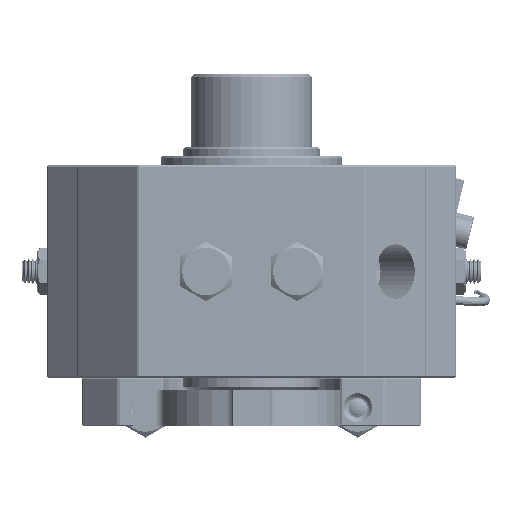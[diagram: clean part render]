
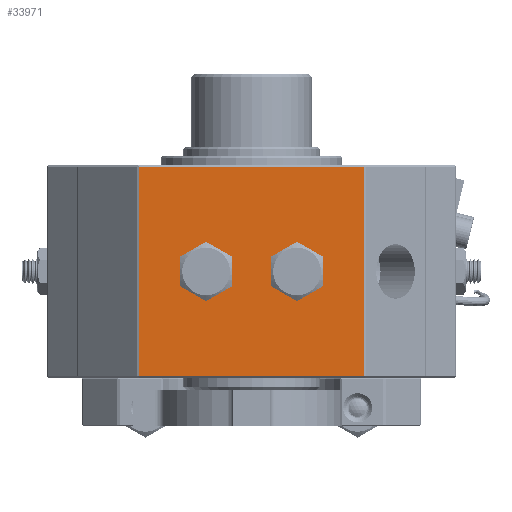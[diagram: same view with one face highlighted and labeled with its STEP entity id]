
A CAD part, left-side view. The second image highlights one B-rep face of the part: STEP entity #33971.
In plain terms, the highlighted planar face has unit normal (-1, 0, 0).
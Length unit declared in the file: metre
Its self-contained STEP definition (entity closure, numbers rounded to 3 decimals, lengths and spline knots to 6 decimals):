
#33910=CARTESIAN_POINT('',(-0.0525,-0.0675,-0.0275));
#33911=DIRECTION('',(1.0,0.0,0.0));
#33912=DIRECTION('',(0.0,0.0,-1.0));
#33913=AXIS2_PLACEMENT_3D('',#33910,#33911,#33912);
#33914=PLANE('',#33913);
#33915=CARTESIAN_POINT('',(-0.0525,0.037,-0.097));
#33916=VERTEX_POINT('',#33915);
#33917=CARTESIAN_POINT('',(-0.0525,0.037,-0.028));
#33918=VERTEX_POINT('',#33917);
#33919=CARTESIAN_POINT('',(-0.0525,0.037,-0.097));
#33920=DIRECTION('',(0.0,0.0,1.0));
#33921=VECTOR('',#33920,0.069);
#33922=LINE('',#33919,#33921);
#33923=EDGE_CURVE('',#33916,#33918,#33922,.T.);
#33924=ORIENTED_EDGE('',*,*,#33923,.F.);
#33925=CARTESIAN_POINT('',(-0.0525,-0.037,-0.097));
#33926=VERTEX_POINT('',#33925);
#33927=CARTESIAN_POINT('',(-0.0525,-0.037,-0.097));
#33928=DIRECTION('',(0.0,1.0,0.0));
#33929=VECTOR('',#33928,0.074);
#33930=LINE('',#33927,#33929);
#33931=EDGE_CURVE('',#33926,#33916,#33930,.T.);
#33932=ORIENTED_EDGE('',*,*,#33931,.F.);
#33933=CARTESIAN_POINT('',(-0.0525,-0.037,-0.028));
#33934=VERTEX_POINT('',#33933);
#33935=CARTESIAN_POINT('',(-0.0525,-0.037,-0.028));
#33936=DIRECTION('',(0.0,0.0,-1.0));
#33937=VECTOR('',#33936,0.069);
#33938=LINE('',#33935,#33937);
#33939=EDGE_CURVE('',#33934,#33926,#33938,.T.);
#33940=ORIENTED_EDGE('',*,*,#33939,.F.);
#33941=CARTESIAN_POINT('',(-0.0525,0.037,-0.028));
#33942=DIRECTION('',(0.0,-1.0,0.0));
#33943=VECTOR('',#33942,0.074);
#33944=LINE('',#33941,#33943);
#33945=EDGE_CURVE('',#33918,#33934,#33944,.T.);
#33946=ORIENTED_EDGE('',*,*,#33945,.F.);
#33947=EDGE_LOOP('',(#33924,#33932,#33940,#33946));
#33948=FACE_OUTER_BOUND('',#33947,.T.);
#33949=CARTESIAN_POINT('',(-0.0525,-0.01,-0.0625));
#33950=VERTEX_POINT('',#33949);
#33951=CARTESIAN_POINT('',(-0.0525,-0.015,-0.0625));
#33952=DIRECTION('',(1.0,0.0,0.0));
#33953=DIRECTION('',(0.0,1.0,0.0));
#33954=AXIS2_PLACEMENT_3D('',#33951,#33952,#33953);
#33955=CIRCLE('',#33954,0.005);
#33956=EDGE_CURVE('',#33950,#33950,#33955,.T.);
#33957=ORIENTED_EDGE('',*,*,#33956,.T.);
#33958=EDGE_LOOP('',(#33957));
#33959=FACE_BOUND('',#33958,.T.);
#33960=CARTESIAN_POINT('',(-0.0525,0.02,-0.0625));
#33961=VERTEX_POINT('',#33960);
#33962=CARTESIAN_POINT('',(-0.0525,0.015,-0.0625));
#33963=DIRECTION('',(1.0,0.0,0.0));
#33964=DIRECTION('',(0.0,1.0,0.0));
#33965=AXIS2_PLACEMENT_3D('',#33962,#33963,#33964);
#33966=CIRCLE('',#33965,0.005);
#33967=EDGE_CURVE('',#33961,#33961,#33966,.T.);
#33968=ORIENTED_EDGE('',*,*,#33967,.T.);
#33969=EDGE_LOOP('',(#33968));
#33970=FACE_BOUND('',#33969,.T.);
#33971=ADVANCED_FACE('',(#33948,#33959,#33970),#33914,.F.);
